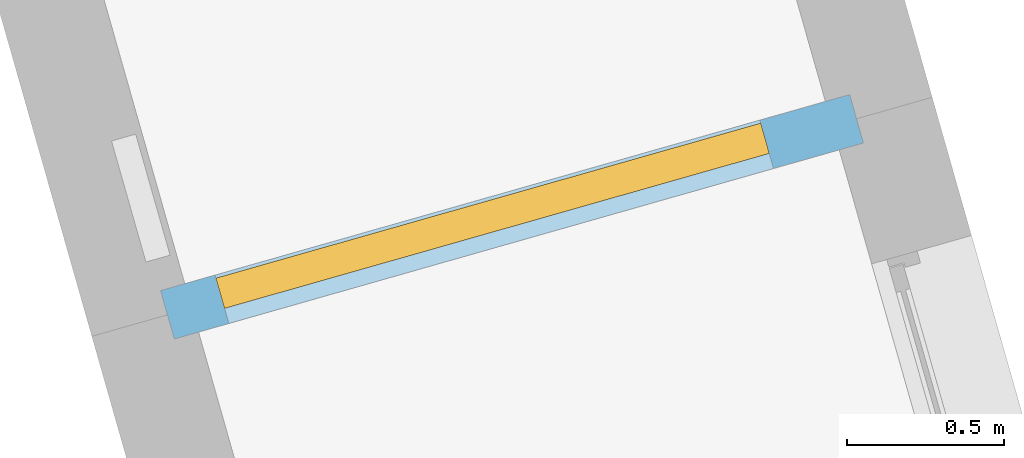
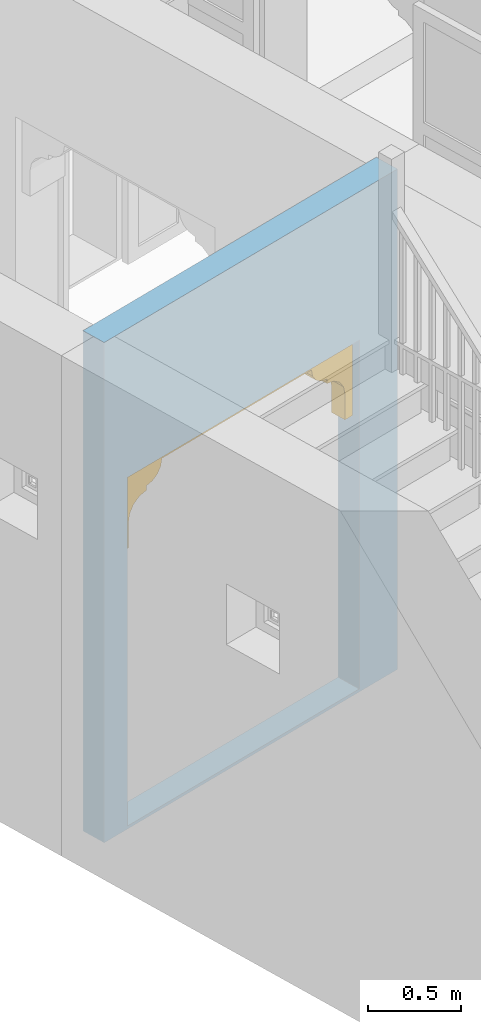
# One storey, part 14 of 14: 1 door, 1 opening, plus 1 element that does not belong to this part.
"""IFC4 building model written with IfcOpenShell, lengths in metres."""

from ifc_helpers import new_model, si_unit, frame, origin, origin_with_axes, place, context, subcontext, project, spatial, polyline, outline, extrude, faceted_brep, source, transform, mapped, material, layer, layer_set, layer_usage, type_object, type_shapes, element, fill, save


model = new_model("IFC4")

# Units and contexts
model_context = context("Model", 3, world=origin_with_axes())
body_context = subcontext(model_context, "Body", "Model", "MODEL_VIEW")
ifc_project = project(units=[si_unit("PLANEANGLEUNIT", "RADIAN"), si_unit("MASSUNIT", "GRAM", prefix="KILO"), si_unit("FORCEUNIT", "NEWTON", prefix="KILO"), si_unit("LENGTHUNIT", "METRE"), si_unit("AREAUNIT", "SQUARE_METRE"), si_unit("VOLUMEUNIT", "CUBIC_METRE")], contexts=[model_context, model_context])

# Site, building, storey
site_placement = place(None, origin_with_axes())
site = spatial("IfcSite", under=ifc_project, at=site_placement, Name="Site plot-3", CompositionType="ELEMENT")
building_placement = place(None, origin_with_axes())
building = spatial("IfcBuilding", under=site, at=building_placement, Name="Building plot-3", CompositionType="ELEMENT")
storey_placement = place(None, origin_with_axes())
storey = spatial("IfcBuildingStorey", under=building, at=storey_placement, Name="plot-3 0", CompositionType="ELEMENT", Elevation=0.0)

# Wall, opening, door
ifc_material = material(Name="Masonry")
ifc_layer = layer(ifc_material, 0.16, ventilated=False)
ifc_layer_set = layer_set([ifc_layer], Name="interior_0.08_0.08")
ifc_layer_usage = layer_usage(ifc_layer_set, "AXIS2", "POSITIVE", -0.08)
wall_type = type_object("IfcWallType", Name="interior_0.08_0.08", PredefinedType="SOLIDWALL", material=ifc_layer_set)
wall_placement = place(storey_placement, frame((11.135823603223, 21.3489503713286, 0.0), z_axis=(0.0, 0.0, 1.0), x_axis=(-0.961841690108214, -0.273606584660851, 0.0)))
wall = element("IfcWall", 1, at=wall_placement, inside=storey, type_object=wall_type, material=ifc_layer_usage, Name="interior", context=body_context, shape_type="SweptSolid", body=[
    extrude(outline(polyline([(5.53738427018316e-16, 0.0800000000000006), (-5.63535601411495e-16, -0.0800000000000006), (2.2768069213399, -0.0800000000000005), (2.2768069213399, 0.0800000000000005), (5.53738427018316e-16, 0.0800000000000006)])), origin_with_axes(), (0.0, 0.0, 1.0), 3.3),
])
opening_placement = place(wall_placement, frame((0.296806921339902, 0.0, 0.02)))
opening = element("IfcOpeningElement", 2, at=opening_placement, cuts=wall, Name="My Opening", ObjectType="Opening", context=body_context, shape_type="SweptSolid", body=[
    extrude(outline(polyline([(0.0, -0.1), (1.8, -0.1), (1.8, 1.1), (2.77555756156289e-16, 1.1), (0.0, -0.1)])), origin_with_axes(), (0.0, 0.0, 1.0), 2.3),
])
door_type = type_object("IfcDoorType", Name="arch-1800x2300-thin", OperationType="SINGLE_SWING_LEFT", PredefinedType="NOTDEFINED")
shared_shape = source(origin(), body_context, "Body", "Brep", [
    faceted_brep([(1.8, 0.03, 1.78), (1.8, 0.03, 1.95), (1.74, 0.03, 1.95), (1.74, 0.03, 1.78), (1.74, 0.13, 1.95), (1.74, 0.13, 1.78), (1.8, 0.03, 2.12), (1.729, 0.03, 2.004), (1.8, 0.13, 1.78), (1.8, 0.13, 1.95), (1.729, 0.13, 2.004), (1.699, 0.03, 2.049), (1.8, 0.13, 2.12), (1.699, 0.13, 2.049), (1.654, 0.03, 2.079), (1.8, 0.13, 2.29), (1.8, 0.03, 2.29), (1.654, 0.13, 2.079), (1.6, 0.03, 2.09), (1.6, 0.03, 2.12), (1.554, 0.03, 2.129), (1.48, 0.13, 2.29), (1.48, 0.03, 2.29), (1.6, 0.13, 2.12), (1.554, 0.13, 2.129), (1.6, 0.13, 2.09), (1.515, 0.03, 2.155), (1.489, 0.13, 2.194), (1.48, 0.13, 2.24), (1.48, 0.03, 2.24), (1.489, 0.03, 2.194), (1.515, 0.13, 2.155), (0.06, 0.03, 1.78), (0.06, 0.03, 1.95), (0.0, 0.03, 1.95), (0.0, 0.03, 1.78), (0.06, 0.13, 1.78), (0.06, 0.13, 1.95), (0.071, 0.03, 2.004), (0.0, 0.03, 2.12), (0.0, 0.13, 1.95), (0.0, 0.13, 1.78), (0.071, 0.13, 2.004), (0.101, 0.03, 2.049), (0.0, 0.13, 2.12), (0.101, 0.13, 2.049), (0.146, 0.03, 2.079), (0.0, 0.03, 2.29), (0.0, 0.13, 2.29), (0.146, 0.13, 2.079), (0.2, 0.03, 2.12), (0.2, 0.03, 2.09), (0.246, 0.03, 2.129), (0.32, 0.03, 2.29), (0.32, 0.13, 2.29), (0.246, 0.13, 2.129), (0.2, 0.13, 2.12), (0.2, 0.13, 2.09), (0.285, 0.03, 2.155), (0.32, 0.13, 2.24), (0.311, 0.13, 2.194), (0.311, 0.03, 2.194), (0.32, 0.03, 2.24), (0.285, 0.13, 2.155)], [[[0, 1, 2, 3]], [[4, 5, 3, 2]], [[1, 6, 7, 2]], [[1, 0, 8, 9]], [[5, 8, 0, 3]], [[5, 4, 9, 8]], [[10, 4, 2, 7]], [[6, 11, 7]], [[6, 1, 9, 12]], [[4, 10, 12, 9]], [[13, 10, 7, 11]], [[6, 14, 11]], [[12, 15, 16, 6]], [[12, 10, 13]], [[17, 13, 11, 14]], [[18, 14, 6, 19]], [[6, 16, 20, 19]], [[16, 15, 21, 22]], [[23, 24, 15, 12]], [[12, 13, 17]], [[25, 17, 14, 18]], [[23, 25, 18, 19]], [[24, 23, 19, 20]], [[16, 26, 20]], [[15, 27, 28, 21]], [[16, 22, 29, 30]], [[31, 15, 24]], [[23, 12, 17, 25]], [[31, 24, 20, 26]], [[16, 30, 26]], [[28, 27, 30, 29]], [[27, 15, 31]], [[27, 31, 26, 30]], [[32, 33, 34, 35]], [[33, 32, 36, 37]], [[33, 38, 39, 34]], [[35, 34, 40, 41]], [[32, 35, 41, 36]], [[41, 40, 37, 36]], [[38, 33, 37, 42]], [[38, 43, 39]], [[44, 40, 34, 39]], [[40, 44, 42, 37]], [[43, 38, 42, 45]], [[43, 46, 39]], [[39, 47, 48, 44]], [[45, 42, 44]], [[46, 43, 45, 49]], [[50, 39, 46, 51]], [[50, 52, 47, 39]], [[53, 54, 48, 47]], [[44, 48, 55, 56]], [[49, 45, 44]], [[51, 46, 49, 57]], [[50, 51, 57, 56]], [[52, 50, 56, 55]], [[52, 58, 47]], [[54, 59, 60, 48]], [[61, 62, 53, 47]], [[55, 48, 63]], [[57, 49, 44, 56]], [[58, 52, 55, 63]], [[58, 61, 47]], [[62, 61, 60, 59]], [[63, 48, 60]], [[61, 58, 63, 60]], [[62, 59, 28, 29]], [[59, 54, 21, 28]], [[53, 62, 29, 22]], [[54, 53, 22, 21]]]),
])
type_shapes(door_type, [shared_shape])
door_placement = place(storey_placement, frame((10.8229816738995, 21.3639262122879, 0.02), z_axis=(0.0, 0.0, 1.0), x_axis=(-1.73131504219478, -0.492491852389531, 0.0)))
door = element("IfcDoor", 3, at=door_placement, inside=storey, type_object=door_type, Name="circulation inside door", OverallHeight=2.3, OverallWidth=1.8, context=body_context, shape_type="MappedRepresentation", body=[
    mapped(shared_shape, transform((0.0, 0.0, 0.0), scale=1.0)),
])
fill(opening, door)

save(model, "model.ifc")
